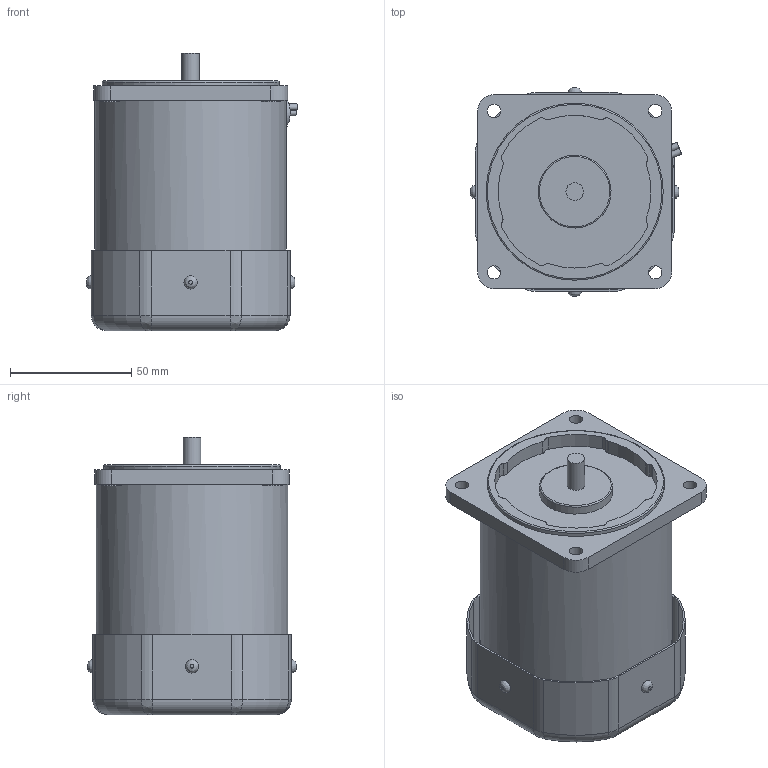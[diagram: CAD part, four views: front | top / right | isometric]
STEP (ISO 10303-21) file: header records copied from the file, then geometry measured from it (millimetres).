
FILE_DESCRIPTION((''),'2;1');
FILE_NAME('Z:\2공장-도면\3D\STEP FILE\K8IG40F□.stp','2019-11-01T09:56:43',('AHN'),(''),'Autodesk Inventor 2009','Autodesk Inventor 2009','');
FILE_SCHEMA(('AUTOMOTIVE_DESIGN { 1 0 10303 214 1 1 1 1 }'));
Length unit declared in the file: millimetre
Products named in the file (3): K8IG40F□; K8IG25N□; K8 40W FAN CASE
Assembly tree (2 placements, depth 2):
  K8IG40F□
    K8IG25N□
    K8 40W FAN CASE
Bounding box: 87.13 x 86 x 114.5 mm (x, y, z)
Volume: 426558.9 mm3; surface area: 64103.7 mm2
Topology: 2 solids, 2 shells, 219 faces, 550 edges, 351 vertices
Faces by surface type: cylinder 131, plane 57, bspline 20, torus 10, cone 1
Full cylindrical faces by diameter (mm): 2.6 x2, 3.5 x4, 5.5 x4, 6.5 x1, 7.21 x1, 8 x4, 30 x1, 73 x1, 78 x1, 79 x1
Entity records: 7018 total; most frequent: CARTESIAN_POINT 1556, DIRECTION 1243, ORIENTED_EDGE 1040, AXIS2_PLACEMENT_3D 520, EDGE_CURVE 520, VERTEX_POINT 346, CIRCLE 316, EDGE_LOOP 289
